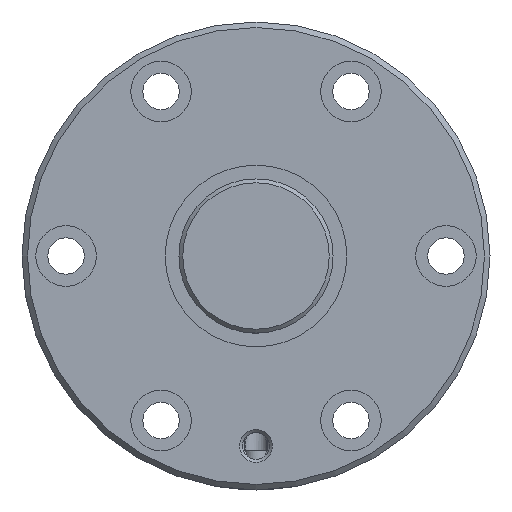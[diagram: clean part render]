
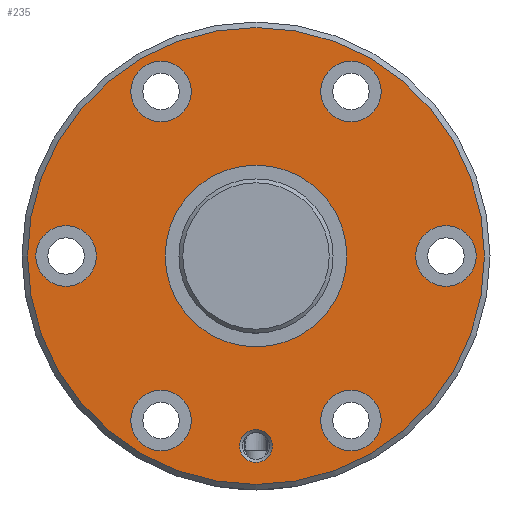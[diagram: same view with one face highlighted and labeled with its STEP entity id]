
A CAD part, left-side view. The second image highlights one B-rep face of the part: STEP entity #235.
In plain terms, the highlighted planar face has unit normal (-1, 0, 0).
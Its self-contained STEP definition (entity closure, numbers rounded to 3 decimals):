
#235 = ADVANCED_FACE( '', ( #458, #459, #460, #461, #462, #463, #464, #465, #466 ), #467, .T. );
#458 = FACE_BOUND( '', #755, .T. );
#459 = FACE_BOUND( '', #756, .T. );
#460 = FACE_BOUND( '', #757, .T. );
#461 = FACE_BOUND( '', #758, .T. );
#462 = FACE_BOUND( '', #759, .T. );
#463 = FACE_BOUND( '', #760, .T. );
#464 = FACE_BOUND( '', #761, .T. );
#465 = FACE_BOUND( '', #762, .T. );
#466 = FACE_OUTER_BOUND( '', #763, .T. );
#467 = PLANE( '', #764 );
#755 = EDGE_LOOP( '', ( #1304 ) );
#756 = EDGE_LOOP( '', ( #1305 ) );
#757 = EDGE_LOOP( '', ( #1306 ) );
#758 = EDGE_LOOP( '', ( #1307 ) );
#759 = EDGE_LOOP( '', ( #1308 ) );
#760 = EDGE_LOOP( '', ( #1309 ) );
#761 = EDGE_LOOP( '', ( #1310 ) );
#762 = EDGE_LOOP( '', ( #1311 ) );
#763 = EDGE_LOOP( '', ( #1312 ) );
#764 = AXIS2_PLACEMENT_3D( '', #1313, #1314, #1315 );
#1304 = ORIENTED_EDGE( '', *, *, #1628, .T. );
#1305 = ORIENTED_EDGE( '', *, *, #1629, .T. );
#1306 = ORIENTED_EDGE( '', *, *, #1516, .T. );
#1307 = ORIENTED_EDGE( '', *, *, #1630, .T. );
#1308 = ORIENTED_EDGE( '', *, *, #1631, .T. );
#1309 = ORIENTED_EDGE( '', *, *, #1632, .T. );
#1310 = ORIENTED_EDGE( '', *, *, #1633, .T. );
#1311 = ORIENTED_EDGE( '', *, *, #1634, .T. );
#1312 = ORIENTED_EDGE( '', *, *, #1635, .F. );
#1313 = CARTESIAN_POINT( '', ( 0., 41.5, 0. ) );
#1314 = DIRECTION( '', ( -1., 0., 0. ) );
#1315 = DIRECTION( '', ( 0., 0., 1. ) );
#1516 = EDGE_CURVE( '', #1709, #1709, #1710, .T. );
#1628 = EDGE_CURVE( '', #1893, #1893, #1894, .T. );
#1629 = EDGE_CURVE( '', #1895, #1895, #1896, .F. );
#1630 = EDGE_CURVE( '', #1897, #1897, #1898, .T. );
#1631 = EDGE_CURVE( '', #1899, #1899, #1900, .T. );
#1632 = EDGE_CURVE( '', #1901, #1901, #1902, .T. );
#1633 = EDGE_CURVE( '', #1903, #1903, #1904, .T. );
#1634 = EDGE_CURVE( '', #1905, #1905, #1906, .T. );
#1635 = EDGE_CURVE( '', #1907, #1907, #1908, .T. );
#1709 = VERTEX_POINT( '', #2115 );
#1710 = CIRCLE( '', #2116, 3. );
#1893 = VERTEX_POINT( '', #2890 );
#1894 = CIRCLE( '', #2891, 16.5 );
#1895 = VERTEX_POINT( '', #2892 );
#1896 = CIRCLE( '', #2893, 5.5 );
#1897 = VERTEX_POINT( '', #2894 );
#1898 = CIRCLE( '', #2895, 5.5 );
#1899 = VERTEX_POINT( '', #2896 );
#1900 = CIRCLE( '', #2897, 5.5 );
#1901 = VERTEX_POINT( '', #2898 );
#1902 = CIRCLE( '', #2899, 5.5 );
#1903 = VERTEX_POINT( '', #2900 );
#1904 = CIRCLE( '', #2901, 5.5 );
#1905 = VERTEX_POINT( '', #2902 );
#1906 = CIRCLE( '', #2903, 5.5 );
#1907 = VERTEX_POINT( '', #2904 );
#1908 = CIRCLE( '', #2905, 41.5 );
#2115 = CARTESIAN_POINT( '', ( 0., 0., -37.5 ) );
#2116 = AXIS2_PLACEMENT_3D( '', #3009, #3010, #3011 );
#2890 = CARTESIAN_POINT( '', ( 0., 0., -16.5 ) );
#2891 = AXIS2_PLACEMENT_3D( '', #3217, #3218, #3219 );
#2892 = CARTESIAN_POINT( '', ( 0., 34.5, 5.5 ) );
#2893 = AXIS2_PLACEMENT_3D( '', #3220, #3221, #3222 );
#2894 = CARTESIAN_POINT( '', ( 0., 17.25, 24.378 ) );
#2895 = AXIS2_PLACEMENT_3D( '', #3223, #3224, #3225 );
#2896 = CARTESIAN_POINT( '', ( 0., -17.25, -35.378 ) );
#2897 = AXIS2_PLACEMENT_3D( '', #3226, #3227, #3228 );
#2898 = CARTESIAN_POINT( '', ( 0., -17.25, 24.378 ) );
#2899 = AXIS2_PLACEMENT_3D( '', #3229, #3230, #3231 );
#2900 = CARTESIAN_POINT( '', ( 0., 17.25, -35.378 ) );
#2901 = AXIS2_PLACEMENT_3D( '', #3232, #3233, #3234 );
#2902 = CARTESIAN_POINT( '', ( 0., -34.5, -5.5 ) );
#2903 = AXIS2_PLACEMENT_3D( '', #3235, #3236, #3237 );
#2904 = CARTESIAN_POINT( '', ( 0., 0., -41.5 ) );
#2905 = AXIS2_PLACEMENT_3D( '', #3238, #3239, #3240 );
#3009 = CARTESIAN_POINT( '', ( 0., 0., -34.5 ) );
#3010 = DIRECTION( '', ( 1., 0., 0. ) );
#3011 = DIRECTION( '', ( 0., 0., -1. ) );
#3217 = CARTESIAN_POINT( '', ( 0., 0., 0. ) );
#3218 = DIRECTION( '', ( 1., 0., 0. ) );
#3219 = DIRECTION( '', ( 0., 0., -1. ) );
#3220 = CARTESIAN_POINT( '', ( 0., 34.5, 0. ) );
#3221 = DIRECTION( '', ( -1., 0., 0. ) );
#3222 = DIRECTION( '', ( 0., 0., 1. ) );
#3223 = CARTESIAN_POINT( '', ( 0., 17.25, 29.878 ) );
#3224 = DIRECTION( '', ( 1., 0., 0. ) );
#3225 = DIRECTION( '', ( 0., 0., -1. ) );
#3226 = CARTESIAN_POINT( '', ( 0., -17.25, -29.878 ) );
#3227 = DIRECTION( '', ( 1., 0., 0. ) );
#3228 = DIRECTION( '', ( 0., 0., -1. ) );
#3229 = CARTESIAN_POINT( '', ( 0., -17.25, 29.878 ) );
#3230 = DIRECTION( '', ( 1., 0., 0. ) );
#3231 = DIRECTION( '', ( 0., 0., -1. ) );
#3232 = CARTESIAN_POINT( '', ( 0., 17.25, -29.878 ) );
#3233 = DIRECTION( '', ( 1., 0., 0. ) );
#3234 = DIRECTION( '', ( 0., 0., -1. ) );
#3235 = CARTESIAN_POINT( '', ( 0., -34.5, 0. ) );
#3236 = DIRECTION( '', ( 1., 0., 0. ) );
#3237 = DIRECTION( '', ( 0., 0., -1. ) );
#3238 = CARTESIAN_POINT( '', ( 0., 0., 0. ) );
#3239 = DIRECTION( '', ( 1., 0., 0. ) );
#3240 = DIRECTION( '', ( 0., 0., -1. ) );
